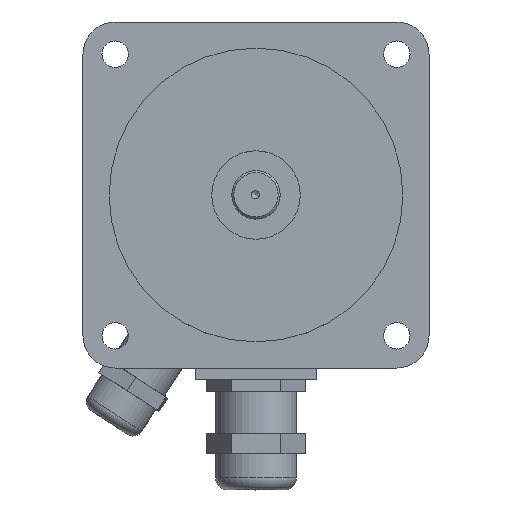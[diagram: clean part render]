
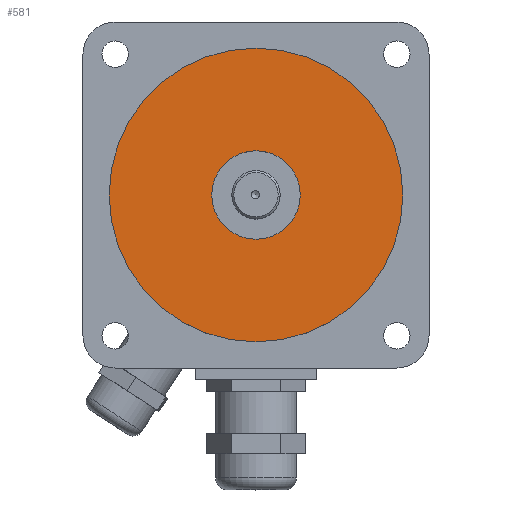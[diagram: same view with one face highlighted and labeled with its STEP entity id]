
A CAD part, top view. The second image highlights one B-rep face of the part: STEP entity #581.
In plain terms, the highlighted planar face has unit normal (0, 0, 1).
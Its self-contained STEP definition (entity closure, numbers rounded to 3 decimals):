
#554=CARTESIAN_POINT('',(-69.773,-89.811,117.505));
#555=DIRECTION('',(0.0,0.0,-1.0));
#556=DIRECTION('',(1.0,0.0,0.0));
#557=AXIS2_PLACEMENT_3D('',#554,#555,#556);
#558=PLANE('',#557);
#559=CARTESIAN_POINT('',(-106.273,-89.811,117.505));
#560=VERTEX_POINT('',#559);
#561=CARTESIAN_POINT('',(-69.773,-89.811,117.505));
#562=DIRECTION('',(0.0,0.0,-1.0));
#563=DIRECTION('',(1.0,0.0,0.0));
#564=AXIS2_PLACEMENT_3D('',#561,#562,#563);
#565=CIRCLE('',#564,36.5);
#566=EDGE_CURVE('',#560,#560,#565,.T.);
#567=ORIENTED_EDGE('',*,*,#566,.F.);
#568=EDGE_LOOP('',(#567));
#569=FACE_OUTER_BOUND('',#568,.T.);
#570=CARTESIAN_POINT('',(-80.773,-89.811,117.505));
#571=VERTEX_POINT('',#570);
#572=CARTESIAN_POINT('',(-69.773,-89.811,117.505));
#573=DIRECTION('',(0.0,0.0,-1.0));
#574=DIRECTION('',(1.0,0.0,0.0));
#575=AXIS2_PLACEMENT_3D('',#572,#573,#574);
#576=CIRCLE('',#575,11.0);
#577=EDGE_CURVE('',#571,#571,#576,.T.);
#578=ORIENTED_EDGE('',*,*,#577,.T.);
#579=EDGE_LOOP('',(#578));
#580=FACE_BOUND('',#579,.T.);
#581=ADVANCED_FACE('',(#569,#580),#558,.F.);
